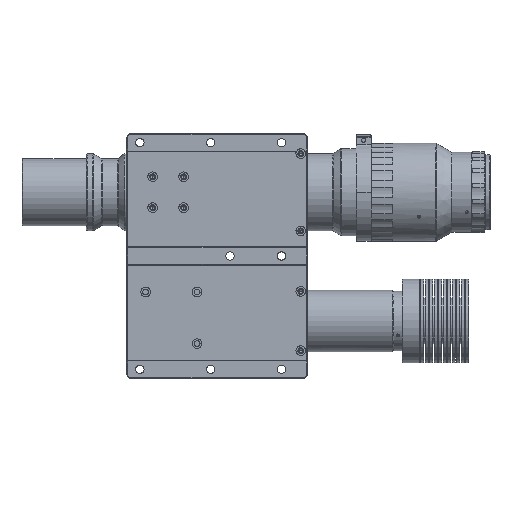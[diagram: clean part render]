
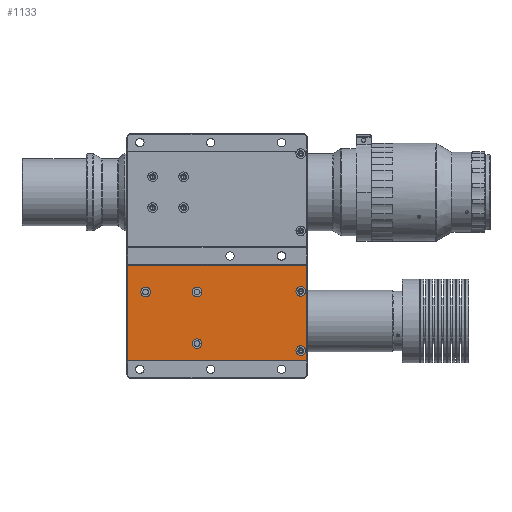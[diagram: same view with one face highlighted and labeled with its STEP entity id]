
A CAD part, front view. The second image highlights one B-rep face of the part: STEP entity #1133.
In plain terms, the highlighted planar face has unit normal (0, -1, 0).
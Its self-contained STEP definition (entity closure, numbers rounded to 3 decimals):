
#1133 = ADVANCED_FACE ( 'NONE', ( #19375, #10560, #20485, #22682, #18264, #26044 ), #11934, .T. ) ;
#1269 = EDGE_LOOP ( 'NONE', ( #23678, #9913 ) ) ;
#1564 = EDGE_CURVE ( 'NONE', #26621, #25086, #24846, .T. ) ;
#1572 = EDGE_CURVE ( 'NONE', #44101, #17897, #23752, .T. ) ;
#1674 = DIRECTION ( 'NONE',  ( -1., 0., 0. ) ) ;
#2596 = VERTEX_POINT ( 'NONE', #25600 ) ;
#3132 = CARTESIAN_POINT ( 'NONE',  ( 132.25, -41.5, -117.5 ) ) ;
#3199 = VERTEX_POINT ( 'NONE', #12729 ) ;
#3281 = CARTESIAN_POINT ( 'NONE',  ( 221., -41.5, -56.5 ) ) ;
#3364 = EDGE_CURVE ( 'NONE', #40790, #2596, #15916, .T. ) ;
#3626 = CARTESIAN_POINT ( 'NONE',  ( 136., -41.5, -77.5 ) ) ;
#3734 = CARTESIAN_POINT ( 'NONE',  ( 230.156, -41.5, -56.5 ) ) ;
#4260 = CARTESIAN_POINT ( 'NONE',  ( 99.75, -41.5, -77.5 ) ) ;
#4289 = EDGE_CURVE ( 'NONE', #17897, #44101, #22414, .T. ) ;
#5421 = VECTOR ( 'NONE', #28057, 1000. ) ;
#5546 = CARTESIAN_POINT ( 'NONE',  ( 136., -41.5, -117.5 ) ) ;
#5902 = CARTESIAN_POINT ( 'NONE',  ( 96., -41.5, -77.5 ) ) ;
#6307 = CARTESIAN_POINT ( 'NONE',  ( 82., -41.5, -56.5 ) ) ;
#6358 = DIRECTION ( 'NONE',  ( 0., 1., 0. ) ) ;
#6626 = CIRCLE ( 'NONE', #16021, 3.75 ) ;
#7058 = DIRECTION ( 'NONE',  ( 0., 1., 0. ) ) ;
#7342 = DIRECTION ( 'NONE',  ( 0., 1., 0. ) ) ;
#7366 = DIRECTION ( 'NONE',  ( -1., 0., 0. ) ) ;
#7458 = EDGE_LOOP ( 'NONE', ( #23482, #9589, #22032, #19344 ) ) ;
#8082 = DIRECTION ( 'NONE',  ( -1., 0., 0. ) ) ;
#8779 = ORIENTED_EDGE ( 'NONE', *, *, #23910, .T. ) ;
#9368 = DIRECTION ( 'NONE',  ( 0., 1., 0. ) ) ;
#9530 = CARTESIAN_POINT ( 'NONE',  ( 216.5, -41.5, -77. ) ) ;
#9589 = ORIENTED_EDGE ( 'NONE', *, *, #26896, .T. ) ;
#9913 = ORIENTED_EDGE ( 'NONE', *, *, #26165, .T. ) ;
#9915 = DIRECTION ( 'NONE',  ( 0., 1., 0. ) ) ;
#9924 = DIRECTION ( 'NONE',  ( -1., 0., 0. ) ) ;
#10073 = EDGE_LOOP ( 'NONE', ( #11878, #15022 ) ) ;
#10560 = FACE_BOUND ( 'NONE', #17528, .T. ) ;
#11161 = AXIS2_PLACEMENT_3D ( 'NONE', #5546, #15473, #11900 ) ;
#11878 = ORIENTED_EDGE ( 'NONE', *, *, #17793, .T. ) ;
#11900 = DIRECTION ( 'NONE',  ( -1., 0., 0. ) ) ;
#11934 = PLANE ( 'NONE',  #18399 ) ;
#12729 = CARTESIAN_POINT ( 'NONE',  ( 139.75, -41.5, -117.5 ) ) ;
#13005 = LINE ( 'NONE', #3734, #36247 ) ;
#13015 = DIRECTION ( 'NONE',  ( -1., 0., 0. ) ) ;
#13191 = CARTESIAN_POINT ( 'NONE',  ( 212.75, -41.5, -123. ) ) ;
#14654 = ORIENTED_EDGE ( 'NONE', *, *, #37078, .T. ) ;
#14772 = CARTESIAN_POINT ( 'NONE',  ( 216.5, -41.5, -123. ) ) ;
#15022 = ORIENTED_EDGE ( 'NONE', *, *, #29619, .T. ) ;
#15473 = DIRECTION ( 'NONE',  ( 0., 1., 0. ) ) ;
#15608 = EDGE_CURVE ( 'NONE', #30202, #36940, #6626, .T. ) ;
#15916 = LINE ( 'NONE', #38385, #31387 ) ;
#16021 = AXIS2_PLACEMENT_3D ( 'NONE', #9530, #9368, #26683 ) ;
#17310 = CARTESIAN_POINT ( 'NONE',  ( 136., -41.5, -117.5 ) ) ;
#17528 = EDGE_LOOP ( 'NONE', ( #14654, #28993 ) ) ;
#17793 = EDGE_CURVE ( 'NONE', #36076, #22077, #20750, .T. ) ;
#17897 = VERTEX_POINT ( 'NONE', #4260 ) ;
#18264 = FACE_BOUND ( 'NONE', #37314, .T. ) ;
#18399 = AXIS2_PLACEMENT_3D ( 'NONE', #29242, #40400, #8082 ) ;
#18947 = CARTESIAN_POINT ( 'NONE',  ( 82., -41.5, -130.5 ) ) ;
#19344 = ORIENTED_EDGE ( 'NONE', *, *, #20099, .T. ) ;
#19375 = FACE_BOUND ( 'NONE', #24082, .T. ) ;
#19612 = CARTESIAN_POINT ( 'NONE',  ( 216.5, -41.5, -123. ) ) ;
#20099 = EDGE_CURVE ( 'NONE', #2596, #35090, #35040, .T. ) ;
#20485 = FACE_BOUND ( 'NONE', #1269, .T. ) ;
#20750 = CIRCLE ( 'NONE', #28623, 3.75 ) ;
#20800 = CARTESIAN_POINT ( 'NONE',  ( 216.5, -41.5, -77. ) ) ;
#20920 = CARTESIAN_POINT ( 'NONE',  ( 82., -41.5, -130.5 ) ) ;
#21963 = CARTESIAN_POINT ( 'NONE',  ( 220.25, -41.5, -77. ) ) ;
#22032 = ORIENTED_EDGE ( 'NONE', *, *, #3364, .T. ) ;
#22077 = VERTEX_POINT ( 'NONE', #29765 ) ;
#22414 = CIRCLE ( 'NONE', #41699, 3.75 ) ;
#22463 = CIRCLE ( 'NONE', #43754, 3.75 ) ;
#22682 = FACE_BOUND ( 'NONE', #10073, .T. ) ;
#23482 = ORIENTED_EDGE ( 'NONE', *, *, #33726, .T. ) ;
#23678 = ORIENTED_EDGE ( 'NONE', *, *, #32673, .T. ) ;
#23752 = CIRCLE ( 'NONE', #33520, 3.75 ) ;
#23910 = EDGE_CURVE ( 'NONE', #25086, #26621, #30352, .T. ) ;
#24082 = EDGE_LOOP ( 'NONE', ( #8779, #25953 ) ) ;
#24318 = DIRECTION ( 'NONE',  ( 0., 1., 0. ) ) ;
#24846 = CIRCLE ( 'NONE', #32644, 3.75 ) ;
#25086 = VERTEX_POINT ( 'NONE', #13191 ) ;
#25213 = VERTEX_POINT ( 'NONE', #3132 ) ;
#25238 = DIRECTION ( 'NONE',  ( -1., 0., 0. ) ) ;
#25569 = AXIS2_PLACEMENT_3D ( 'NONE', #19612, #29966, #1674 ) ;
#25600 = CARTESIAN_POINT ( 'NONE',  ( 221., -41.5, -130.5 ) ) ;
#25953 = ORIENTED_EDGE ( 'NONE', *, *, #1564, .T. ) ;
#26044 = FACE_OUTER_BOUND ( 'NONE', #7458, .T. ) ;
#26165 = EDGE_CURVE ( 'NONE', #3199, #25213, #42045, .T. ) ;
#26466 = LINE ( 'NONE', #20920, #5421 ) ;
#26547 = CARTESIAN_POINT ( 'NONE',  ( 220.25, -41.5, -123. ) ) ;
#26621 = VERTEX_POINT ( 'NONE', #26547 ) ;
#26683 = DIRECTION ( 'NONE',  ( -1., 0., 0. ) ) ;
#26896 = EDGE_CURVE ( 'NONE', #37035, #40790, #26466, .T. ) ;
#27217 = ORIENTED_EDGE ( 'NONE', *, *, #1572, .T. ) ;
#27678 = DIRECTION ( 'NONE',  ( -1., 0., 0. ) ) ;
#27913 = DIRECTION ( 'NONE',  ( -1., 0., 0. ) ) ;
#28017 = ORIENTED_EDGE ( 'NONE', *, *, #4289, .T. ) ;
#28057 = DIRECTION ( 'NONE',  ( 0., 0., -1. ) ) ;
#28472 = DIRECTION ( 'NONE',  ( -1., 0., 0. ) ) ;
#28623 = AXIS2_PLACEMENT_3D ( 'NONE', #41938, #6358, #27678 ) ;
#28750 = AXIS2_PLACEMENT_3D ( 'NONE', #20800, #7058, #7366 ) ;
#28806 = DIRECTION ( 'NONE',  ( 0., 1., 0. ) ) ;
#28993 = ORIENTED_EDGE ( 'NONE', *, *, #15608, .T. ) ;
#29242 = CARTESIAN_POINT ( 'NONE',  ( 151.5, -41.5, -49.5 ) ) ;
#29619 = EDGE_CURVE ( 'NONE', #22077, #36076, #35673, .T. ) ;
#29765 = CARTESIAN_POINT ( 'NONE',  ( 139.75, -41.5, -77.5 ) ) ;
#29911 = CIRCLE ( 'NONE', #28750, 3.75 ) ;
#29966 = DIRECTION ( 'NONE',  ( 0., 1., 0. ) ) ;
#30202 = VERTEX_POINT ( 'NONE', #21963 ) ;
#30352 = CIRCLE ( 'NONE', #25569, 3.75 ) ;
#31105 = DIRECTION ( 'NONE',  ( 0., 1., 0. ) ) ;
#31387 = VECTOR ( 'NONE', #31433, 1000. ) ;
#31433 = DIRECTION ( 'NONE',  ( 1., 0., 0. ) ) ;
#32081 = DIRECTION ( 'NONE',  ( -1., 0., 0. ) ) ;
#32644 = AXIS2_PLACEMENT_3D ( 'NONE', #14772, #7342, #32081 ) ;
#32673 = EDGE_CURVE ( 'NONE', #25213, #3199, #22463, .T. ) ;
#33520 = AXIS2_PLACEMENT_3D ( 'NONE', #43066, #28806, #25238 ) ;
#33726 = EDGE_CURVE ( 'NONE', #35090, #37035, #13005, .T. ) ;
#34524 = VECTOR ( 'NONE', #42413, 1000. ) ;
#35040 = LINE ( 'NONE', #3281, #34524 ) ;
#35090 = VERTEX_POINT ( 'NONE', #40434 ) ;
#35673 = CIRCLE ( 'NONE', #38003, 3.75 ) ;
#36076 = VERTEX_POINT ( 'NONE', #42896 ) ;
#36247 = VECTOR ( 'NONE', #28472, 1000. ) ;
#36940 = VERTEX_POINT ( 'NONE', #41734 ) ;
#37035 = VERTEX_POINT ( 'NONE', #6307 ) ;
#37078 = EDGE_CURVE ( 'NONE', #36940, #30202, #29911, .T. ) ;
#37314 = EDGE_LOOP ( 'NONE', ( #27217, #28017 ) ) ;
#38003 = AXIS2_PLACEMENT_3D ( 'NONE', #3626, #24318, #27913 ) ;
#38385 = CARTESIAN_POINT ( 'NONE',  ( 75.672, -41.5, -130.5 ) ) ;
#39683 = CARTESIAN_POINT ( 'NONE',  ( 92.25, -41.5, -77.5 ) ) ;
#40400 = DIRECTION ( 'NONE',  ( 0., -1., 0. ) ) ;
#40434 = CARTESIAN_POINT ( 'NONE',  ( 221., -41.5, -56.5 ) ) ;
#40790 = VERTEX_POINT ( 'NONE', #18947 ) ;
#41699 = AXIS2_PLACEMENT_3D ( 'NONE', #5902, #9915, #13015 ) ;
#41734 = CARTESIAN_POINT ( 'NONE',  ( 212.75, -41.5, -77. ) ) ;
#41938 = CARTESIAN_POINT ( 'NONE',  ( 136., -41.5, -77.5 ) ) ;
#42045 = CIRCLE ( 'NONE', #11161, 3.75 ) ;
#42413 = DIRECTION ( 'NONE',  ( 0., 0., 1. ) ) ;
#42896 = CARTESIAN_POINT ( 'NONE',  ( 132.25, -41.5, -77.5 ) ) ;
#43066 = CARTESIAN_POINT ( 'NONE',  ( 96., -41.5, -77.5 ) ) ;
#43754 = AXIS2_PLACEMENT_3D ( 'NONE', #17310, #31105, #9924 ) ;
#44101 = VERTEX_POINT ( 'NONE', #39683 ) ;
